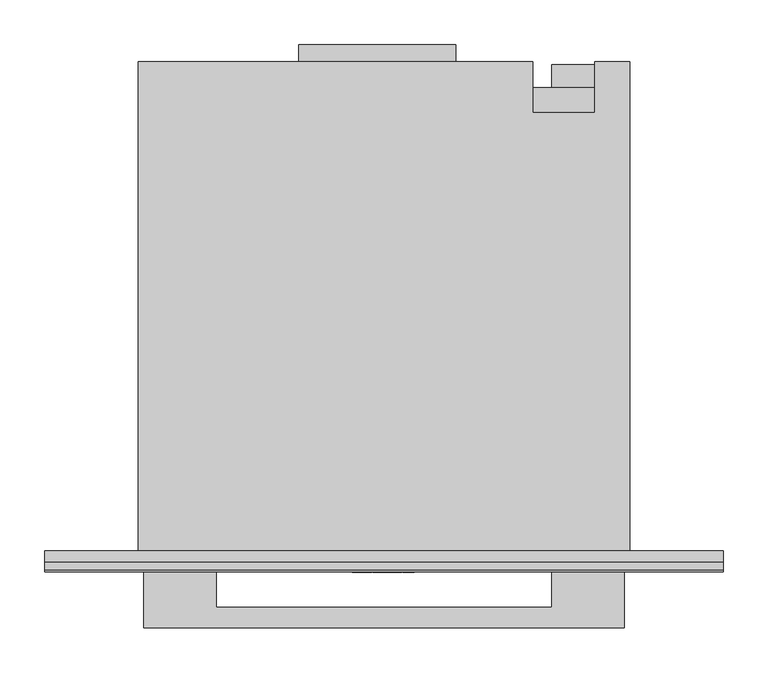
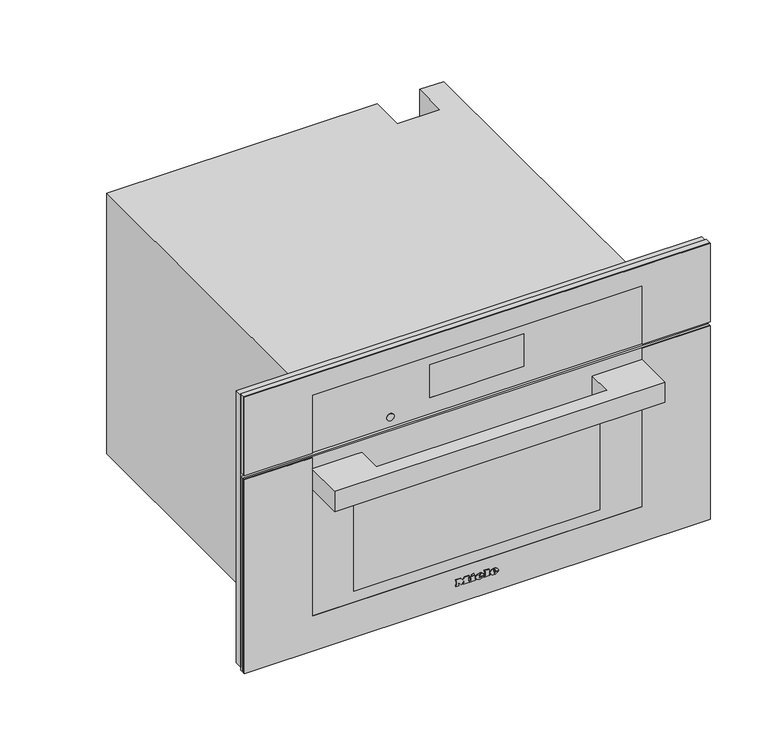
"""IFC4 building model written with IfcOpenShell, lengths in millimetres: proxy geometry, 11875780_USA_DGC7770_EDST-CLST : 23777042_USA_11875780_DGC7770_EDST-CLST."""

from ifc_helpers import new_model, si_unit, point, frame, frame_2d, origin, place, context, project, spatial, polyline, circle_curve, ellipse_curve, trimmed, segment, composite_curve, outline, extrude, faceted_brep, source, transform, mapped, element, save
from ifc_brep_helpers import plane_surface, cylinder_surface, revolved_surface, extruded_surface, advanced_brep


def specialty_equipment_94763660(model_context):
    return source(origin(), model_context, "Body", "SolidModel", [
        faceted_brep([(378.5, -13.0, 476.0), (-378.5, -13.0, 476.0), (-378.5, -13.0, 9.0), (-272.5, -13.0, 9.0), (-272.5, -13.0, 344.0), (272.5, -13.0, 344.0), (272.5, -13.0, 9.0), (378.5, -13.0, 9.0), (378.5, 0.0, 476.0), (378.5, 0.0, 9.0), (-378.5, 0.0, 9.0), (-378.5, 0.0, 476.0), (231.0, 0.0, 58.0), (231.0, 0.0, 286.0), (-231.0, 0.0, 286.0), (-231.0, 0.0, 58.0), (272.5, -5.0, 9.0), (-272.5, -5.0, 9.0), (-272.5, -5.0, 344.0), (272.5, -5.0, 344.0), (231.0, -5.0, 286.0), (231.0, -5.0, 58.0), (-231.0, -5.0, 58.0), (-231.0, -5.0, 286.0)], [[[0, 1, 2, 3, 4, 5, 6, 7]], [[8, 9, 10, 11], [12, 13, 14, 15]], [[1, 0, 8, 11]], [[2, 1, 11, 10]], [[10, 9, 7, 6, 16, 17, 3, 2]], [[0, 7, 9, 8]], [[18, 19, 5, 4]], [[18, 4, 3, 17]], [[5, 19, 16, 6]], [[19, 18, 17, 16], [20, 21, 22, 23]], [[20, 13, 12, 21]], [[21, 12, 15, 22]], [[22, 15, 14, 23]], [[13, 20, 23, 14]]]),
        extrude(outline(polyline([(-95.0, 565.0), (80.0, 565.0), (80.0, 546.0), (-95.0, 546.0), (-95.0, 565.0)])), frame((0.0, 0.0, 260.0), z_axis=(0.0, 0.0, 1.0), x_axis=(1.0, 0.0, 0.0)), (0.0, 0.0, 1.0), 1.0),
        extrude(outline(polyline([(224.8383288, 537.0), (231.1236409, 537.0), (231.1236409, 526.9492425), (229.8571792, 526.9492425), (229.8571792, 535.7409796), (224.8383288, 535.7409796), (224.8383288, 537.0)])), frame((0.0, 0.0, 132.0), z_axis=(0.0, 0.0, 1.0), x_axis=(1.0, 0.0, 0.0)), (0.0, 0.0, 1.0), 1.0),
        extrude(outline(polyline([(233.0, 537.0), (240.3797826, 537.0), (240.3797826, 526.9503529), (233.15422, 526.9503529), (233.15422, 528.220938), (239.1355215, 528.220938), (239.1355215, 531.1975645), (233.4863097, 531.1975645), (233.4863097, 532.449242), (239.1355215, 532.449242), (239.1355215, 535.7448633), (233.0, 535.7448633), (233.0, 537.0)])), frame((0.0, 0.0, 132.0), z_axis=(0.0, 0.0, 1.0), x_axis=(1.0, 0.0, 0.0)), (0.0, 0.0, 1.0), 1.0),
        extrude(outline(composite_curve([segment(trimmed(circle_curve(frame_2d((233.0, 532.0)), 7.5), [point((225.5, 532.0))], [point((240.5, 532.0))], False, "CARTESIAN"), True, "CONTINUOUS"), segment(trimmed(circle_curve(frame_2d((233.0, 532.0)), 7.5), [point((240.5, 532.0))], [point((225.5, 532.0))], False, "CARTESIAN"), True, "CONTINUOUS")], self_intersect=False)), frame((0.0, 0.0, 133.0), z_axis=(0.0, 0.0, 1.0), x_axis=(1.0, 0.0, 0.0)), (0.0, 0.0, 1.0), 30.0),
        extrude(outline(polyline([(266.0, 517.0), (187.0, 517.0), (187.0, 543.0), (266.0, 543.0), (266.0, 517.0)])), frame((0.0, 0.0, 163.0), z_axis=(0.0, 0.0, 1.0), x_axis=(1.0, 0.0, 0.0)), (0.0, 0.0, 1.0), 111.0),
        faceted_brep([(-274.0, 546.0, 0.0), (-274.0, 546.0, 448.0), (166.0, 546.0, 448.0), (166.0, 546.0, 0.0), (235.0, 546.0, 448.0), (274.0, 546.0, 448.0), (274.0, 546.0, 338.0), (235.0, 546.0, 338.0), (274.0, 0.0, 448.0), (-274.0, 0.0, 448.0), (-274.0, 0.0, 0.0), (274.0, 0.0, 0.0), (231.0, 0.0, 286.0), (231.0, 0.0, 58.0), (-231.0, 0.0, 58.0), (-231.0, 0.0, 286.0), (235.0, 489.0, 448.0), (166.0, 489.0, 448.0), (166.0, 517.0, 0.0), (274.0, 517.0, 0.0), (274.0, 517.0, 338.0), (231.0, 411.0, 286.0), (-231.0, 411.0, 286.0), (-231.0, 411.0, 58.0), (231.0, 411.0, 58.0), (235.0, 489.0, 337.0), (166.0, 489.0, 337.0), (166.0, 517.0, 337.0), (235.0, 517.0, 337.0), (235.0, 517.0, 338.0)], [[[0, 1, 2, 3]], [[4, 5, 6, 7]], [[8, 9, 10, 11], [12, 13, 14, 15]], [[9, 8, 5, 4, 16, 17, 2, 1]], [[1, 0, 10, 9]], [[11, 10, 0, 3, 18, 19]], [[8, 11, 19, 20, 6, 5]], [[21, 22, 23, 24]], [[21, 24, 13, 12]], [[24, 23, 14, 13]], [[23, 22, 15, 14]], [[22, 21, 12, 15]], [[16, 25, 26, 17]], [[17, 26, 27, 18, 3, 2]], [[26, 25, 28, 27]], [[25, 16, 4, 7, 29, 28]], [[29, 20, 19, 18, 27, 28]], [[20, 29, 7, 6]]]),
        advanced_brep(
        [(26.2998, -24.3, 36.7018), (26.2998, -24.3, 37.8532), (33.9264, -24.3, 37.8532), (20.6568, -24.3, 37.8532), (23.7918, -24.3, 34.0), (33.7326, -24.3, 36.7018), (30.2898, -24.3, 36.7018), (27.5766, -24.3, 35.425), (26.2998, -24.3, 39.3124), (26.2998, -24.3, 40.555), (28.2492, -24.3, 40.555), (28.2492, -24.3, 39.3124), (26.2998, -23.3, 36.7018), (27.5766, -23.3, 35.425), (30.2898, -23.3, 36.7018), (33.7326, -23.3, 36.7018), (23.7918, -23.3, 34.0), (20.6568, -23.3, 37.8532), (33.9264, -23.3, 37.8532), (26.2998, -23.3, 37.8532), (26.2998, -23.3, 39.3124), (28.2492, -23.3, 39.3124), (28.2492, -23.3, 40.555), (26.2998, -23.3, 40.555)],
        [
            (0, 1),
            (1, 2),
            (2, 3, ellipse_curve(frame((27.2916, -24.3, 37.8532), z_axis=(0.0, -1.0, 0.0), x_axis=(-1.0, 0.0, 0.0)), 6.6348, 5.4834)),
            (3, 4, circle_curve(frame((25.0686622, -24.3, 38.2408), z_axis=(0.0, -1.0, 0.0), x_axis=(0.0, 0.0, -1.0)), 4.4288556)),
            (4, 5, circle_curve(frame((27.1587808, -24.3, 41.2504), z_axis=(0.0, -1.0, 0.0), x_axis=(0.0, 0.0, -1.0)), 7.9940516)),
            (5, 6),
            (6, 7, circle_curve(frame((28.1338588, -24.3, 37.762), z_axis=(0.0, 1.0, 0.0), x_axis=(0.0, 0.0, -1.0)), 2.4025208)),
            (7, 0, circle_curve(frame((27.5766, -24.3, 36.7018), z_axis=(0.0, 1.0, 0.0), x_axis=(0.0, 0.0, -1.0)), 1.2768)),
            (8, 9),
            (9, 10, circle_curve(frame((27.2745, -24.3, 40.555), z_axis=(0.0, 1.0, 0.0), x_axis=(0.0, 0.0, -1.0)), 0.9747)),
            (10, 11),
            (11, 8),
            (12, 13, circle_curve(frame((27.5766, -23.3, 36.7018), z_axis=(0.0, -1.0, 0.0), x_axis=(0.0, 0.0, -1.0)), 1.2768)),
            (13, 14, circle_curve(frame((28.1338588, -23.3, 37.762), z_axis=(0.0, -1.0, 0.0), x_axis=(0.0, 0.0, -1.0)), 2.4025208)),
            (14, 15),
            (15, 16, circle_curve(frame((27.1587808, -23.3, 41.2504), z_axis=(0.0, 1.0, 0.0), x_axis=(0.0, 0.0, -1.0)), 7.9940516)),
            (16, 17, circle_curve(frame((25.0686622, -23.3, 38.2408), z_axis=(0.0, 1.0, 0.0), x_axis=(0.0, 0.0, -1.0)), 4.4288556)),
            (17, 18, ellipse_curve(frame((27.2916, -23.3, 37.8532), z_axis=(0.0, 1.0, 0.0), x_axis=(-1.0, 0.0, 0.0)), 6.6348, 5.4834)),
            (18, 19),
            (19, 12),
            (20, 21),
            (21, 22),
            (22, 23, circle_curve(frame((27.2745, -23.3, 40.555), z_axis=(0.0, -1.0, 0.0), x_axis=(0.0, 0.0, -1.0)), 0.9747)),
            (23, 20),
            (0, 12),
            (19, 1),
            (18, 2),
            (5, 15),
            (14, 6),
            (17, 3),
            (13, 7),
            (16, 4),
            (8, 20),
            (23, 9),
            (22, 10),
            (21, 11),
        ],
        [
            plane_surface(frame((26.2998, -24.3, 37.8532), z_axis=(0.0, -1.0, 0.0), x_axis=(0.0, 0.0, 1.0))),
            plane_surface(frame((26.2998, -23.3, 37.8532), z_axis=(0.0, 1.0, 0.0), x_axis=(0.0, 0.0, -1.0))),
            plane_surface(frame((26.2998, -24.3, 36.7018), z_axis=(1.0, 0.0, 0.0), x_axis=(0.0, 1.0, 0.0))),
            plane_surface(frame((26.2998, -24.3, 37.8532), z_axis=(0.0, 0.0, -1.0), x_axis=(0.0, 1.0, 0.0))),
            plane_surface(frame((33.7326, -24.3, 36.7018), z_axis=(0.0, 0.0, 1.0), x_axis=(0.0, 1.0, 0.0))),
            extruded_surface(trimmed(ellipse_curve(frame((27.2916, -22.3, 37.8532), z_axis=(0.0, -1.0, 0.0), x_axis=(-1.0, 0.0, 0.0)), 6.6348, 5.4834), [point((33.9264, -22.3, 37.8532))], [point((20.6568, -22.3, 37.8532))], True, "CARTESIAN"), (0.0, -1.0, 0.0), 1.0),
            revolved_surface(polyline([(28.1338588, -23.3, 35.3594792), (28.1338588, -24.3, 35.3594792)]), (28.1338588, -23.3, 37.762), (0.0, 1.0, 0.0)),
            revolved_surface(polyline([(27.5766, -23.3, 35.425), (27.5766, -24.3, 35.425)]), (27.5766, -23.3, 36.7018), (0.0, 1.0, 0.0)),
            cylinder_surface(frame((25.0686622, -23.3, 38.2408), z_axis=(0.0, -1.0, 0.0), x_axis=(0.0, 0.0, -1.0)), 4.4288556),
            cylinder_surface(frame((27.1587808, -23.3, 41.2504), z_axis=(0.0, -1.0, 0.0), x_axis=(0.0, 0.0, -1.0)), 7.9940516),
            plane_surface(frame((26.2998, -24.3, 39.3124), z_axis=(1.0, 0.0, 0.0), x_axis=(0.0, 1.0, 0.0))),
            revolved_surface(polyline([(27.2745, -23.3, 39.5803), (27.2745, -24.3, 39.5803)]), (27.2745, -23.3, 40.555), (0.0, 1.0, 0.0)),
            plane_surface(frame((28.2492, -24.3, 40.555), z_axis=(-1.0, 0.0, 0.0), x_axis=(0.0, 1.0, 0.0))),
            plane_surface(frame((28.2492, -24.3, 39.3124), z_axis=(0.0, 0.0, 1.0), x_axis=(0.0, 1.0, 0.0))),
        ],
        [
            (0, [[1, 2, 3, 4, 5, 6, 7, 8], [9, 10, 11, 12]]),
            (1, [[13, 14, 15, 16, 17, 18, 19, 20], [21, 22, 23, 24]]),
            (2, [[-1, 25, -20, 26]]),
            (3, [[-2, -26, -19, 27]]),
            (4, [[-6, 28, -15, 29]]),
            (5, [[-3, -27, -18, 30]]),
            (6, [[-7, -29, -14, 31]]),
            (7, [[-8, -31, -13, -25]]),
            (8, [[-4, -30, -17, 32]]),
            (9, [[-5, -32, -16, -28]]),
            (10, [[-9, 33, -24, 34]]),
            (11, [[-10, -34, -23, 35]]),
            (12, [[-11, -35, -22, 36]]),
            (13, [[-12, -36, -21, -33]]),
        ],
    ),
        advanced_brep(
        [(2.508, -24.3, 36.7018), (2.508, -24.3, 37.8532), (10.1346, -24.3, 37.8532), (-3.135, -24.3, 37.8532), (0.0, -24.3, 34.0), (9.9408, -24.3, 36.7018), (6.498, -24.3, 36.7018), (3.7848, -24.3, 35.425), (2.508, -24.3, 39.3124), (2.508, -24.3, 40.555), (4.4574, -24.3, 40.555), (4.4574, -24.3, 39.3124), (2.508, -23.3, 36.7018), (3.7848, -23.3, 35.425), (6.498, -23.3, 36.7018), (9.9408, -23.3, 36.7018), (0.0, -23.3, 34.0), (-3.135, -23.3, 37.8532), (10.1346, -23.3, 37.8532), (2.508, -23.3, 37.8532), (2.508, -23.3, 39.3124), (4.4574, -23.3, 39.3124), (4.4574, -23.3, 40.555), (2.508, -23.3, 40.555)],
        [
            (0, 1),
            (1, 2),
            (2, 3, ellipse_curve(frame((3.4998, -24.3, 37.8532), z_axis=(0.0, -1.0, 0.0), x_axis=(-1.0, 0.0, 0.0)), 6.6348, 5.4834)),
            (3, 4, circle_curve(frame((1.2768622, -24.3, 38.2408), z_axis=(0.0, -1.0, 0.0), x_axis=(0.0, 0.0, -1.0)), 4.4288556)),
            (4, 5, circle_curve(frame((3.3669808, -24.3, 41.2504), z_axis=(0.0, -1.0, 0.0), x_axis=(0.0, 0.0, -1.0)), 7.9940516)),
            (5, 6),
            (6, 7, circle_curve(frame((4.3420588, -24.3, 37.762), z_axis=(0.0, 1.0, 0.0), x_axis=(0.0, 0.0, -1.0)), 2.4025208)),
            (7, 0, circle_curve(frame((3.7848, -24.3, 36.7018), z_axis=(0.0, 1.0, 0.0), x_axis=(0.0, 0.0, -1.0)), 1.2768)),
            (8, 9),
            (9, 10, circle_curve(frame((3.4827, -24.3, 40.555), z_axis=(0.0, 1.0, 0.0), x_axis=(0.0, 0.0, -1.0)), 0.9747)),
            (10, 11),
            (11, 8),
            (12, 13, circle_curve(frame((3.7848, -23.3, 36.7018), z_axis=(0.0, -1.0, 0.0), x_axis=(0.0, 0.0, -1.0)), 1.2768)),
            (13, 14, circle_curve(frame((4.3420588, -23.3, 37.762), z_axis=(0.0, -1.0, 0.0), x_axis=(0.0, 0.0, -1.0)), 2.4025208)),
            (14, 15),
            (15, 16, circle_curve(frame((3.3669808, -23.3, 41.2504), z_axis=(0.0, 1.0, 0.0), x_axis=(0.0, 0.0, -1.0)), 7.9940516)),
            (16, 17, circle_curve(frame((1.2768622, -23.3, 38.2408), z_axis=(0.0, 1.0, 0.0), x_axis=(0.0, 0.0, -1.0)), 4.4288556)),
            (17, 18, ellipse_curve(frame((3.4998, -23.3, 37.8532), z_axis=(0.0, 1.0, 0.0), x_axis=(-1.0, 0.0, 0.0)), 6.6348, 5.4834)),
            (18, 19),
            (19, 12),
            (20, 21),
            (21, 22),
            (22, 23, circle_curve(frame((3.4827, -23.3, 40.555), z_axis=(0.0, -1.0, 0.0), x_axis=(0.0, 0.0, -1.0)), 0.9747)),
            (23, 20),
            (0, 12),
            (19, 1),
            (18, 2),
            (5, 15),
            (14, 6),
            (17, 3),
            (13, 7),
            (16, 4),
            (8, 20),
            (23, 9),
            (22, 10),
            (21, 11),
        ],
        [
            plane_surface(frame((2.508, -24.3, 37.8532), z_axis=(0.0, -1.0, 0.0), x_axis=(0.0, 0.0, 1.0))),
            plane_surface(frame((2.508, -23.3, 37.8532), z_axis=(0.0, 1.0, 0.0), x_axis=(0.0, 0.0, -1.0))),
            plane_surface(frame((2.508, -24.3, 36.7018), z_axis=(1.0, 0.0, 0.0), x_axis=(0.0, 1.0, 0.0))),
            plane_surface(frame((2.508, -24.3, 37.8532), z_axis=(0.0, 0.0, -1.0), x_axis=(0.0, 1.0, 0.0))),
            plane_surface(frame((9.9408, -24.3, 36.7018), z_axis=(0.0, 0.0, 1.0), x_axis=(0.0, 1.0, 0.0))),
            extruded_surface(trimmed(ellipse_curve(frame((3.4998, -22.3, 37.8532), z_axis=(0.0, -1.0, 0.0), x_axis=(-1.0, 0.0, 0.0)), 6.6348, 5.4834), [point((10.1346, -22.3, 37.8532))], [point((-3.135, -22.3, 37.8532))], True, "CARTESIAN"), (0.0, -1.0, 0.0), 1.0),
            revolved_surface(polyline([(4.3420588, -23.3, 35.3594792), (4.3420588, -24.3, 35.3594792)]), (4.3420588, -23.3, 37.762), (0.0, 1.0, 0.0)),
            revolved_surface(polyline([(3.7848, -23.3, 35.425), (3.7848, -24.3, 35.425)]), (3.7848, -23.3, 36.7018), (0.0, 1.0, 0.0)),
            cylinder_surface(frame((1.2768622, -23.3, 38.2408), z_axis=(0.0, -1.0, 0.0), x_axis=(0.0, 0.0, -1.0)), 4.4288556),
            cylinder_surface(frame((3.3669808, -23.3, 41.2504), z_axis=(0.0, -1.0, 0.0), x_axis=(0.0, 0.0, -1.0)), 7.9940516),
            plane_surface(frame((2.508, -24.3, 39.3124), z_axis=(1.0, 0.0, 0.0), x_axis=(0.0, 1.0, 0.0))),
            revolved_surface(polyline([(3.4827, -23.3, 39.5803), (3.4827, -24.3, 39.5803)]), (3.4827, -23.3, 40.555), (0.0, 1.0, 0.0)),
            plane_surface(frame((4.4574, -24.3, 40.555), z_axis=(-1.0, 0.0, 0.0), x_axis=(0.0, 1.0, 0.0))),
            plane_surface(frame((4.4574, -24.3, 39.3124), z_axis=(0.0, 0.0, 1.0), x_axis=(0.0, 1.0, 0.0))),
        ],
        [
            (0, [[1, 2, 3, 4, 5, 6, 7, 8], [9, 10, 11, 12]]),
            (1, [[13, 14, 15, 16, 17, 18, 19, 20], [21, 22, 23, 24]]),
            (2, [[-1, 25, -20, 26]]),
            (3, [[-2, -26, -19, 27]]),
            (4, [[-6, 28, -15, 29]]),
            (5, [[-3, -27, -18, 30]]),
            (6, [[-7, -29, -14, 31]]),
            (7, [[-8, -31, -13, -25]]),
            (8, [[-4, -30, -17, 32]]),
            (9, [[-5, -32, -16, -28]]),
            (10, [[-9, 33, -24, 34]]),
            (11, [[-10, -34, -23, 35]]),
            (12, [[-11, -35, -22, 36]]),
            (13, [[-12, -36, -21, -33]]),
        ],
    ),
        extrude(outline(polyline([(44.7274, -9.9522), (42.8806, -9.0858), (44.6818, -5.2212), (46.5286, -6.0762), (44.7274, -9.9522)])), frame((0.0, -24.3, 0.0), z_axis=(0.0, 1.0, 0.0), x_axis=(0.0, 0.0, 1.0)), (0.0, 0.0, 1.0), 1.0),
        extrude(outline(polyline([(42.6298, -12.768), (40.5892, -12.768), (40.5892, -11.4114), (35.9152, -11.4114), (35.9152, -12.768), (34.0, -12.768), (34.0, -3.7734), (35.9152, -3.7734), (35.9152, -5.0958), (42.6298, -5.0958), (42.6298, -12.768)])), frame((0.0, -24.3, 0.0), z_axis=(0.0, 1.0, 0.0), x_axis=(0.0, 0.0, 1.0)), (0.0, 0.0, 1.0), 1.0),
        extrude(outline(polyline([(43.5418, 10.773), (43.5418, 12.141), (35.9152, 12.141), (35.9152, 10.773), (34.0, 10.773), (34.0, 20.0184), (35.9152, 20.0184), (35.9152, 18.6162), (45.4, 18.6162), (45.4, 10.773), (43.5418, 10.773)])), frame((0.0, -24.3, 0.0), z_axis=(0.0, 1.0, 0.0), x_axis=(0.0, 0.0, 1.0)), (0.0, 0.0, 1.0), 1.0),
        extrude(outline(polyline([(43.5418, -35.4882), (43.5418, -34.1088), (35.9152, -34.1088), (35.9152, -35.4882), (34.0, -35.4882), (34.0, -30.4722), (35.9152, -30.4722), (35.9152, -31.8402), (40.7429247, -31.8402), (34.0, -26.7444), (40.9402223, -21.6258), (35.9152, -21.6258), (35.9152, -23.028), (34.0, -23.028), (34.0, -13.9308), (35.9152, -13.9308), (35.9152, -15.3786), (43.5418, -15.3786), (43.5418, -13.9308), (45.4, -13.9308), (45.4, -20.8734), (41.125, -24.2022), (45.4, -27.5424), (45.4, -35.4882), (43.5418, -35.4882)])), frame((0.0, -24.3, 0.0), z_axis=(0.0, 1.0, 0.0), x_axis=(0.0, 0.0, 1.0)), (0.0, 0.0, 1.0), 1.0),
        extrude(outline(composite_curve([segment(trimmed(circle_curve(frame_2d((361.0, -140.5745637)), 6.0), [point((361.0, -146.5745637))], [point((361.0, -134.5745637))], False, "CARTESIAN"), True, "CONTINUOUS"), segment(trimmed(circle_curve(frame_2d((361.0, -140.5745637)), 6.0), [point((361.0, -134.5745637))], [point((361.0, -146.5745637))], False, "CARTESIAN"), True, "CONTINUOUS")], self_intersect=False)), frame((0.0, -22.5, 0.0), z_axis=(0.0, 1.0, 0.0), x_axis=(0.0, 0.0, 1.0)), (0.0, 0.0, 1.0), 1.0),
        extrude(outline(polyline([(344.0, -268.5), (444.0, -268.5), (444.0, 268.5), (344.0, 268.5), (344.0, 378.5), (479.0, 378.5), (479.0, -378.5), (344.0, -378.5), (344.0, -268.5)])), frame((0.0, -23.3, 0.0), z_axis=(0.0, 1.0, 0.0), x_axis=(0.0, 0.0, 1.0)), (0.0, 0.0, 1.0), 1.3),
        extrude(outline(polyline([(-76.5, -21.0), (76.5, -21.0), (76.5, -22.0), (-76.5, -22.0), (-76.5, -21.0)])), frame((0.0, 0.0, 372.0), z_axis=(0.0, 0.0, 1.0), x_axis=(1.0, 0.0, 0.0)), (0.0, 0.0, 1.0), 56.0),
        faceted_brep([(378.5, -22.0, 479.0), (-378.5, -22.0, 479.0), (-378.5, -22.0, 344.0), (378.5, -22.0, 344.0), (76.5, -22.0, 428.0), (76.5, -22.0, 372.0), (-76.5, -22.0, 372.0), (-76.5, -22.0, 428.0), (378.5, -13.0, 479.0), (378.5, -13.0, 344.0), (-378.5, -13.0, 344.0), (-378.5, -13.0, 479.0), (76.5, -21.0, 428.0), (-76.5, -21.0, 428.0), (-76.5, -21.0, 372.0), (76.5, -21.0, 372.0)], [[[0, 1, 2, 3], [4, 5, 6, 7]], [[8, 9, 10, 11]], [[1, 0, 8, 11]], [[2, 1, 11, 10]], [[3, 2, 10, 9]], [[0, 3, 9, 8]], [[12, 13, 14, 15]], [[12, 15, 5, 4]], [[15, 14, 6, 5]], [[14, 13, 7, 6]], [[13, 12, 4, 7]]]),
        extrude(outline(polyline([(200.0, -22.0), (-200.0, -22.0), (-200.0, -18.0), (200.0, -18.0), (200.0, -22.0)])), frame((0.0, 0.0, 82.0), z_axis=(0.0, 0.0, 1.0), x_axis=(1.0, 0.0, 0.0)), (0.0, 0.0, 1.0), 170.0),
        extrude(outline(polyline([(337.0, 378.5), (337.0, -378.5), (4.0, -378.5), (4.0, 378.5), (337.0, 378.5)]), holes=[polyline([(252.0, -200.0), (252.0, 200.0), (82.0, 200.0), (82.0, -200.0), (252.0, -200.0)])]), frame((0.0, -22.0, 0.0), z_axis=(0.0, 1.0, 0.0), x_axis=(0.0, 0.0, 1.0)), (0.0, 0.0, 1.0), 4.0),
        extrude(outline(polyline([(-187.0, -22.0), (-187.0, -63.3), (187.0, -63.3), (187.0, -22.0), (268.0, -22.0), (268.0, -86.3), (-268.0, -86.3), (-268.0, -22.0), (-187.0, -22.0)])), frame((0.0, 0.0, 282.0), z_axis=(0.0, 0.0, 1.0), x_axis=(1.0, 0.0, 0.0)), (0.0, 0.0, 1.0), 35.0),
        extrude(outline(polyline([(337.0, -378.5), (4.0, -378.5), (4.0, 378.5), (337.0, 378.5), (337.0, 268.5), (64.0, 268.5), (64.0, -268.5), (337.0, -268.5), (337.0, -378.5)])), frame((0.0, -23.3, 0.0), z_axis=(0.0, 1.0, 0.0), x_axis=(0.0, 0.0, 1.0)), (0.0, 0.0, 1.0), 1.3),
        extrude(outline(polyline([(378.5, -18.0), (-378.5, -18.0), (-378.5, -13.0), (378.5, -13.0), (378.5, -18.0)])), frame((0.0, 0.0, 4.0), z_axis=(0.0, 0.0, 1.0), x_axis=(1.0, 0.0, 0.0)), (0.0, 0.0, 1.0), 333.0),
    ])


if __name__ == "__main__":
    model = new_model("IFC4")
    model_context = context("Model", 3, world=origin())
    ifc_project = project(units=[si_unit("LENGTHUNIT", "METRE", prefix="MILLI")], contexts=[model_context])
    site = spatial("IfcSite", under=ifc_project)
    building = spatial("IfcBuilding", under=site)
    placement = place(None, origin())
    specialty_equipment_shape = specialty_equipment_94763660(model_context)
    element("IfcBuildingElementProxy", 1, Name="11875780_USA_DGC7770_EDST-CLST : 23777042_USA_11875780_DGC7770_EDST-CLST", ObjectType="11875780_USA_DGC7770_EDST-CLST : 23777042_USA_11875780_DGC7770_EDST-CLST", at=placement, inside=building, context=model_context, shape_type="MappedRepresentation", body=[
        mapped(specialty_equipment_shape, transform((0.0, 0.0, 0.0), x_axis=(1.0, 0.0, 0.0), y_axis=(0.0, 1.0, 0.0), z_axis=(0.0, 0.0, 1.0))),
    ])
    save(model, "model.ifc")
